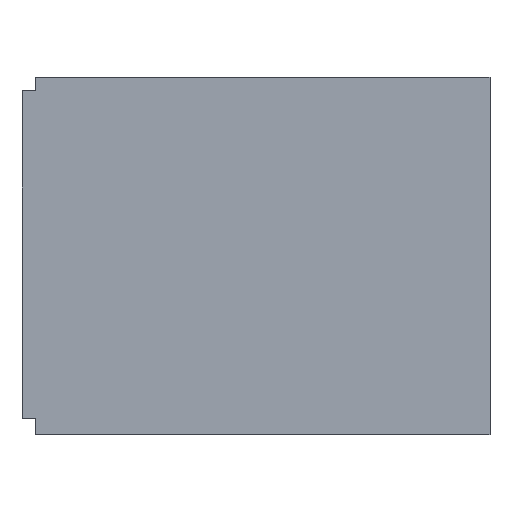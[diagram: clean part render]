
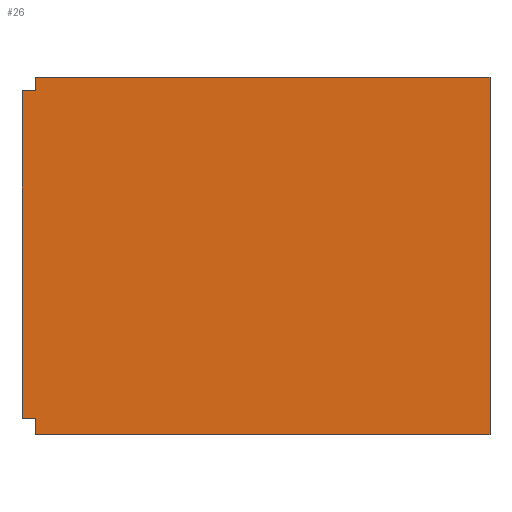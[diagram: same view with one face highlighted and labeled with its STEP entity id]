
A CAD part, front view. The second image highlights one B-rep face of the part: STEP entity #26.
In plain terms, the highlighted planar face has unit normal (0, -1, 0).
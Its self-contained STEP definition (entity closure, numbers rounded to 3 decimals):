
#26=ADVANCED_FACE('',(#36),#336,.T.);
#36=FACE_OUTER_BOUND('',#46,.T.);
#46=EDGE_LOOP('',(#62,#63,#64,#65,#66,#67,#68,#69));
#62=ORIENTED_EDGE('',*,*,#228,.F.);
#63=ORIENTED_EDGE('',*,*,#222,.F.);
#64=ORIENTED_EDGE('',*,*,#229,.T.);
#65=ORIENTED_EDGE('',*,*,#230,.T.);
#66=ORIENTED_EDGE('',*,*,#231,.T.);
#67=ORIENTED_EDGE('',*,*,#232,.T.);
#68=ORIENTED_EDGE('',*,*,#233,.T.);
#69=ORIENTED_EDGE('',*,*,#234,.T.);
#102=PCURVE('',#334,#150);
#109=PCURVE('',#335,#157);
#110=PCURVE('',#336,#158);
#111=PCURVE('',#336,#159);
#112=PCURVE('',#336,#160);
#113=PCURVE('',#336,#161);
#114=PCURVE('',#336,#162);
#115=PCURVE('',#336,#163);
#116=PCURVE('',#336,#164);
#117=PCURVE('',#336,#165);
#127=PCURVE('',#338,#175);
#131=PCURVE('',#339,#179);
#134=PCURVE('',#340,#182);
#139=PCURVE('',#341,#187);
#143=PCURVE('',#342,#191);
#146=PCURVE('',#343,#194);
#150=DEFINITIONAL_REPRESENTATION('',(#247),#561);
#157=DEFINITIONAL_REPRESENTATION('',(#260),#561);
#158=DEFINITIONAL_REPRESENTATION('',(#261),#561);
#159=DEFINITIONAL_REPRESENTATION('',(#262),#561);
#160=DEFINITIONAL_REPRESENTATION('',(#264),#561);
#161=DEFINITIONAL_REPRESENTATION('',(#266),#561);
#162=DEFINITIONAL_REPRESENTATION('',(#268),#561);
#163=DEFINITIONAL_REPRESENTATION('',(#270),#561);
#164=DEFINITIONAL_REPRESENTATION('',(#272),#561);
#165=DEFINITIONAL_REPRESENTATION('',(#274),#561);
#175=DEFINITIONAL_REPRESENTATION('',(#291),#561);
#179=DEFINITIONAL_REPRESENTATION('',(#297),#561);
#182=DEFINITIONAL_REPRESENTATION('',(#300),#561);
#187=DEFINITIONAL_REPRESENTATION('',(#306),#561);
#191=DEFINITIONAL_REPRESENTATION('',(#311),#561);
#194=DEFINITIONAL_REPRESENTATION('',(#314),#561);
#198=SURFACE_CURVE('',#246,(#102,#111),.PCURVE_S1.);
#204=SURFACE_CURVE('',#259,(#109,#110),.PCURVE_S1.);
#205=SURFACE_CURVE('',#263,(#112,#134),.PCURVE_S1.);
#206=SURFACE_CURVE('',#265,(#113,#127),.PCURVE_S1.);
#207=SURFACE_CURVE('',#267,(#114,#131),.PCURVE_S1.);
#208=SURFACE_CURVE('',#269,(#115,#146),.PCURVE_S1.);
#209=SURFACE_CURVE('',#271,(#116,#139),.PCURVE_S1.);
#210=SURFACE_CURVE('',#273,(#117,#143),.PCURVE_S1.);
#222=EDGE_CURVE('',#318,#320,#198,.T.);
#228=EDGE_CURVE('',#320,#330,#204,.T.);
#229=EDGE_CURVE('',#318,#324,#205,.T.);
#230=EDGE_CURVE('',#324,#326,#206,.T.);
#231=EDGE_CURVE('',#326,#322,#207,.T.);
#232=EDGE_CURVE('',#322,#329,#208,.T.);
#233=EDGE_CURVE('',#329,#332,#209,.T.);
#234=EDGE_CURVE('',#332,#330,#210,.T.);
#246=B_SPLINE_CURVE_WITH_KNOTS('',1,(#416,#417),.UNSPECIFIED.,.F.,.F.,(2,
2),(-784.,-627.),.UNSPECIFIED.);
#247=B_SPLINE_CURVE_WITH_KNOTS('',1,(#418,#419),.UNSPECIFIED.,.F.,.F.,(2,
2),(-784.,-627.),.UNSPECIFIED.);
#259=B_SPLINE_CURVE_WITH_KNOTS('',1,(#442,#443),.UNSPECIFIED.,.F.,.F.,(2,
2),(-627.,-18.441),.UNSPECIFIED.);
#260=B_SPLINE_CURVE_WITH_KNOTS('',1,(#444,#445),.UNSPECIFIED.,.F.,.F.,(2,
2),(-627.,-18.441),.UNSPECIFIED.);
#261=B_SPLINE_CURVE_WITH_KNOTS('',1,(#446,#447),.UNSPECIFIED.,.F.,.F.,(2,
2),(-627.,-18.441),.UNSPECIFIED.);
#262=B_SPLINE_CURVE_WITH_KNOTS('',1,(#448,#449),.UNSPECIFIED.,.F.,.F.,(2,
2),(-784.,-627.),.UNSPECIFIED.);
#263=B_SPLINE_CURVE_WITH_KNOTS('',1,(#450,#451),.UNSPECIFIED.,.F.,.F.,(2,
2),(784.,1392.559),.UNSPECIFIED.);
#264=B_SPLINE_CURVE_WITH_KNOTS('',1,(#452,#453),.UNSPECIFIED.,.F.,.F.,(2,
2),(784.,1392.559),.UNSPECIFIED.);
#265=B_SPLINE_CURVE_WITH_KNOTS('',1,(#454,#455),.UNSPECIFIED.,.F.,.F.,(2,
2),(-10.,-5.),.UNSPECIFIED.);
#266=B_SPLINE_CURVE_WITH_KNOTS('',1,(#456,#457),.UNSPECIFIED.,.F.,.F.,(2,
2),(-10.,-5.),.UNSPECIFIED.);
#267=B_SPLINE_CURVE_WITH_KNOTS('',1,(#458,#459),.UNSPECIFIED.,.F.,.F.,(2,
2),(-5.,0.),.UNSPECIFIED.);
#268=B_SPLINE_CURVE_WITH_KNOTS('',1,(#460,#461),.UNSPECIFIED.,.F.,.F.,(2,
2),(-5.,0.),.UNSPECIFIED.);
#269=B_SPLINE_CURVE_WITH_KNOTS('',1,(#462,#463),.UNSPECIFIED.,.F.,.F.,(2,
2),(1417.038,1560.754),.UNSPECIFIED.);
#270=B_SPLINE_CURVE_WITH_KNOTS('',1,(#464,#465),.UNSPECIFIED.,.F.,.F.,(2,
2),(1417.038,1560.754),.UNSPECIFIED.);
#271=B_SPLINE_CURVE_WITH_KNOTS('',1,(#466,#467),.UNSPECIFIED.,.F.,.F.,(2,
2),(-16.,-11.),.UNSPECIFIED.);
#272=B_SPLINE_CURVE_WITH_KNOTS('',1,(#468,#469),.UNSPECIFIED.,.F.,.F.,(2,
2),(-16.,-11.),.UNSPECIFIED.);
#273=B_SPLINE_CURVE_WITH_KNOTS('',1,(#470,#471),.UNSPECIFIED.,.F.,.F.,(2,
2),(-11.,-5.),.UNSPECIFIED.);
#274=B_SPLINE_CURVE_WITH_KNOTS('',1,(#472,#473),.UNSPECIFIED.,.F.,.F.,(2,
2),(-11.,-5.),.UNSPECIFIED.);
#291=B_SPLINE_CURVE_WITH_KNOTS('',1,(#506,#507),.UNSPECIFIED.,.F.,.F.,(2,
2),(-10.,-5.),.UNSPECIFIED.);
#297=B_SPLINE_CURVE_WITH_KNOTS('',1,(#518,#519),.UNSPECIFIED.,.F.,.F.,(2,
2),(-5.,0.),.UNSPECIFIED.);
#300=B_SPLINE_CURVE_WITH_KNOTS('',1,(#524,#525),.UNSPECIFIED.,.F.,.F.,(2,
2),(784.,1392.559),.UNSPECIFIED.);
#306=B_SPLINE_CURVE_WITH_KNOTS('',1,(#536,#537),.UNSPECIFIED.,.F.,.F.,(2,
2),(-16.,-11.),.UNSPECIFIED.);
#311=B_SPLINE_CURVE_WITH_KNOTS('',1,(#546,#547),.UNSPECIFIED.,.F.,.F.,(2,
2),(-11.,-5.),.UNSPECIFIED.);
#314=B_SPLINE_CURVE_WITH_KNOTS('',1,(#552,#553),.UNSPECIFIED.,.F.,.F.,(2,
2),(1417.038,1560.754),.UNSPECIFIED.);
#318=VERTEX_POINT('',#400);
#320=VERTEX_POINT('',#402);
#322=VERTEX_POINT('',#404);
#324=VERTEX_POINT('',#406);
#326=VERTEX_POINT('',#408);
#329=VERTEX_POINT('',#411);
#330=VERTEX_POINT('',#412);
#332=VERTEX_POINT('',#414);
#334=PLANE('',#364);
#335=PLANE('',#365);
#336=PLANE('',#366);
#338=PLANE('',#368);
#339=PLANE('',#369);
#340=PLANE('',#370);
#341=PLANE('',#371);
#342=PLANE('',#372);
#343=PLANE('',#373);
#364=AXIS2_PLACEMENT_3D('',#390,#377,$);
#365=AXIS2_PLACEMENT_3D('',#391,#378,$);
#366=AXIS2_PLACEMENT_3D('',#392,#379,$);
#368=AXIS2_PLACEMENT_3D('',#394,#381,$);
#369=AXIS2_PLACEMENT_3D('',#395,#382,$);
#370=AXIS2_PLACEMENT_3D('',#396,#383,$);
#371=AXIS2_PLACEMENT_3D('',#397,#384,$);
#372=AXIS2_PLACEMENT_3D('',#398,#385,$);
#373=AXIS2_PLACEMENT_3D('',#399,#386,$);
#377=DIRECTION('',(1.,0.,0.));
#378=DIRECTION('',(0.,0.,-1.));
#379=DIRECTION('',(0.,-1.,0.));
#381=DIRECTION('',(-1.,0.,0.));
#382=DIRECTION('',(0.,0.,1.));
#383=DIRECTION('',(0.,0.,1.));
#384=DIRECTION('',(0.,0.,-1.));
#385=DIRECTION('',(-1.,0.,0.));
#386=DIRECTION('',(-1.,0.,0.));
#390=CARTESIAN_POINT('',(-645.,322.,-36.));
#391=CARTESIAN_POINT('',(-645.,322.,-166.));
#392=CARTESIAN_POINT('',(-645.,322.,-166.));
#394=CARTESIAN_POINT('',(-810.,322.,-36.));
#395=CARTESIAN_POINT('',(-810.,322.,-41.));
#396=CARTESIAN_POINT('',(-815.,322.,-36.));
#397=CARTESIAN_POINT('',(-815.,322.,-160.));
#398=CARTESIAN_POINT('',(-810.,322.,-160.));
#399=CARTESIAN_POINT('',(-815.,322.,-166.));
#400=CARTESIAN_POINT('',(-645.,322.,-36.));
#402=CARTESIAN_POINT('',(-645.,322.,-166.));
#404=CARTESIAN_POINT('',(-815.,322.,-41.));
#406=CARTESIAN_POINT('',(-810.,322.,-36.));
#408=CARTESIAN_POINT('',(-810.,322.,-41.));
#411=CARTESIAN_POINT('',(-815.,322.,-160.));
#412=CARTESIAN_POINT('',(-810.,322.,-166.));
#414=CARTESIAN_POINT('',(-810.,322.,-160.));
#416=CARTESIAN_POINT('',(-645.,322.,-36.));
#417=CARTESIAN_POINT('',(-645.,322.,-166.));
#418=CARTESIAN_POINT('',(-784.,0.));
#419=CARTESIAN_POINT('',(-627.,0.));
#442=CARTESIAN_POINT('',(-645.,322.,-166.));
#443=CARTESIAN_POINT('',(-810.,322.,-166.));
#444=CARTESIAN_POINT('',(-627.,0.));
#445=CARTESIAN_POINT('',(-18.441,0.));
#446=CARTESIAN_POINT('',(0.,-170.));
#447=CARTESIAN_POINT('',(0.,-5.));
#448=CARTESIAN_POINT('',(130.,-170.));
#449=CARTESIAN_POINT('',(0.,-170.));
#450=CARTESIAN_POINT('',(-645.,322.,-36.));
#451=CARTESIAN_POINT('',(-810.,322.,-36.));
#452=CARTESIAN_POINT('',(130.,-170.));
#453=CARTESIAN_POINT('',(130.,-5.));
#454=CARTESIAN_POINT('',(-810.,322.,-36.));
#455=CARTESIAN_POINT('',(-810.,322.,-41.));
#456=CARTESIAN_POINT('',(130.,-5.));
#457=CARTESIAN_POINT('',(125.,-5.));
#458=CARTESIAN_POINT('',(-810.,322.,-41.));
#459=CARTESIAN_POINT('',(-815.,322.,-41.));
#460=CARTESIAN_POINT('',(125.,-5.));
#461=CARTESIAN_POINT('',(125.,0.));
#462=CARTESIAN_POINT('',(-815.,322.,-41.));
#463=CARTESIAN_POINT('',(-815.,322.,-160.));
#464=CARTESIAN_POINT('',(125.,0.));
#465=CARTESIAN_POINT('',(6.,0.));
#466=CARTESIAN_POINT('',(-815.,322.,-160.));
#467=CARTESIAN_POINT('',(-810.,322.,-160.));
#468=CARTESIAN_POINT('',(6.,0.));
#469=CARTESIAN_POINT('',(6.,-5.));
#470=CARTESIAN_POINT('',(-810.,322.,-160.));
#471=CARTESIAN_POINT('',(-810.,322.,-166.));
#472=CARTESIAN_POINT('',(6.,-5.));
#473=CARTESIAN_POINT('',(0.,-5.));
#506=CARTESIAN_POINT('',(0.,-10.));
#507=CARTESIAN_POINT('',(0.,-5.));
#518=CARTESIAN_POINT('',(0.,-5.));
#519=CARTESIAN_POINT('',(0.,0.));
#524=CARTESIAN_POINT('',(-784.,0.));
#525=CARTESIAN_POINT('',(-1392.559,0.));
#536=CARTESIAN_POINT('',(0.,-16.));
#537=CARTESIAN_POINT('',(0.,-11.));
#546=CARTESIAN_POINT('',(0.,-11.));
#547=CARTESIAN_POINT('',(0.,-5.));
#552=CARTESIAN_POINT('',(-1417.038,0.));
#553=CARTESIAN_POINT('',(-1560.754,0.));
#561=(
GEOMETRIC_REPRESENTATION_CONTEXT(2)
PARAMETRIC_REPRESENTATION_CONTEXT()
REPRESENTATION_CONTEXT('pspace','')
);
